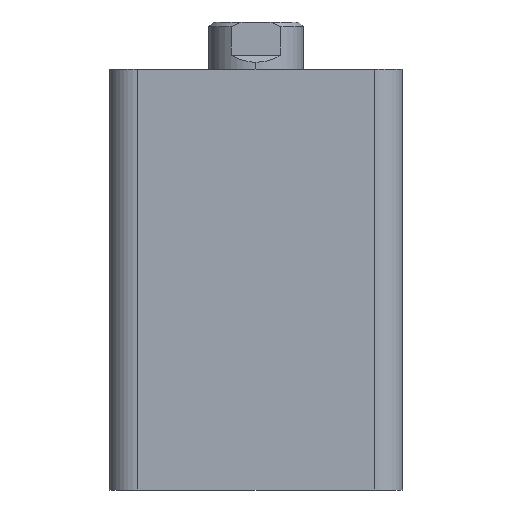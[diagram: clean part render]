
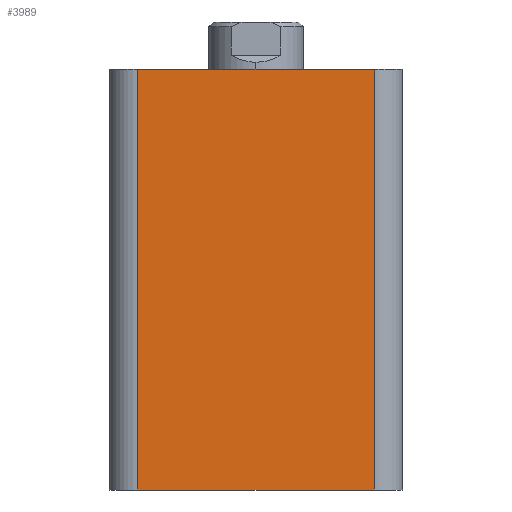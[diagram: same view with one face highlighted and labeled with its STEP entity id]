
A CAD part, left-side view. The second image highlights one B-rep face of the part: STEP entity #3989.
In plain terms, the highlighted planar face has unit normal (-1, 0, 0).
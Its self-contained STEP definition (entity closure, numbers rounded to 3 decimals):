
#152 = VECTOR ( 'NONE', #1545, 1000. ) ;
#155 = LINE ( 'NONE', #1546, #152 ) ;
#375 = DIRECTION ( 'NONE',  ( 0., -1., 0. ) ) ;
#377 = CARTESIAN_POINT ( 'NONE',  ( -31., 31., 0. ) ) ;
#404 = CARTESIAN_POINT ( 'NONE',  ( -31., -25., 89. ) ) ;
#405 = DIRECTION ( 'NONE',  ( 0., 0., 1. ) ) ;
#406 = CARTESIAN_POINT ( 'NONE',  ( -31., 25., 89. ) ) ;
#407 = DIRECTION ( 'NONE',  ( 0., 0., -1. ) ) ;
#1014 = FACE_OUTER_BOUND ( 'NONE', #4214, .T. ) ;
#1334 = LINE ( 'NONE', #377, #1335 ) ;
#1335 = VECTOR ( 'NONE', #375, 1000. ) ;
#1545 = DIRECTION ( 'NONE',  ( 0., -1., 0. ) ) ;
#1546 = CARTESIAN_POINT ( 'NONE',  ( -31., 31., 89. ) ) ;
#2142 = EDGE_CURVE ( 'NONE', #2676, #2670, #155, .T. ) ;
#2177 = EDGE_CURVE ( 'NONE', #2893, #2810, #1334, .T. ) ;
#2187 = EDGE_CURVE ( 'NONE', #2810, #2670, #2328, .T. ) ;
#2188 = EDGE_CURVE ( 'NONE', #2676, #2893, #2325, .T. ) ;
#2322 = VECTOR ( 'NONE', #407, 1000. ) ;
#2324 = VECTOR ( 'NONE', #405, 1000. ) ;
#2325 = LINE ( 'NONE', #406, #2322 ) ;
#2328 = LINE ( 'NONE', #404, #2324 ) ;
#2416 = AXIS2_PLACEMENT_3D ( 'NONE', #4646, #4655, #4656 ) ;
#2670 = VERTEX_POINT ( 'NONE', #3644 ) ;
#2676 = VERTEX_POINT ( 'NONE', #3649 ) ;
#2810 = VERTEX_POINT ( 'NONE', #3740 ) ;
#2893 = VERTEX_POINT ( 'NONE', #3778 ) ;
#3644 = CARTESIAN_POINT ( 'NONE',  ( -31., -25., 89. ) ) ;
#3649 = CARTESIAN_POINT ( 'NONE',  ( -31., 25., 89. ) ) ;
#3740 = CARTESIAN_POINT ( 'NONE',  ( -31., -25., 0. ) ) ;
#3778 = CARTESIAN_POINT ( 'NONE',  ( -31., 25., 0. ) ) ;
#3989 = ADVANCED_FACE ( 'NONE', ( #1014 ), #4653, .F. ) ;
#4214 = EDGE_LOOP ( 'NONE', ( #4408, #4409, #4410, #4411 ) ) ;
#4408 = ORIENTED_EDGE ( 'NONE', *, *, #2177, .T. ) ;
#4409 = ORIENTED_EDGE ( 'NONE', *, *, #2187, .T. ) ;
#4410 = ORIENTED_EDGE ( 'NONE', *, *, #2142, .F. ) ;
#4411 = ORIENTED_EDGE ( 'NONE', *, *, #2188, .T. ) ;
#4646 = CARTESIAN_POINT ( 'NONE',  ( -31., 31., 89. ) ) ;
#4653 = PLANE ( 'NONE',  #2416 ) ;
#4655 = DIRECTION ( 'NONE',  ( 1., 0., 0. ) ) ;
#4656 = DIRECTION ( 'NONE',  ( 0., 0., -1. ) ) ;
